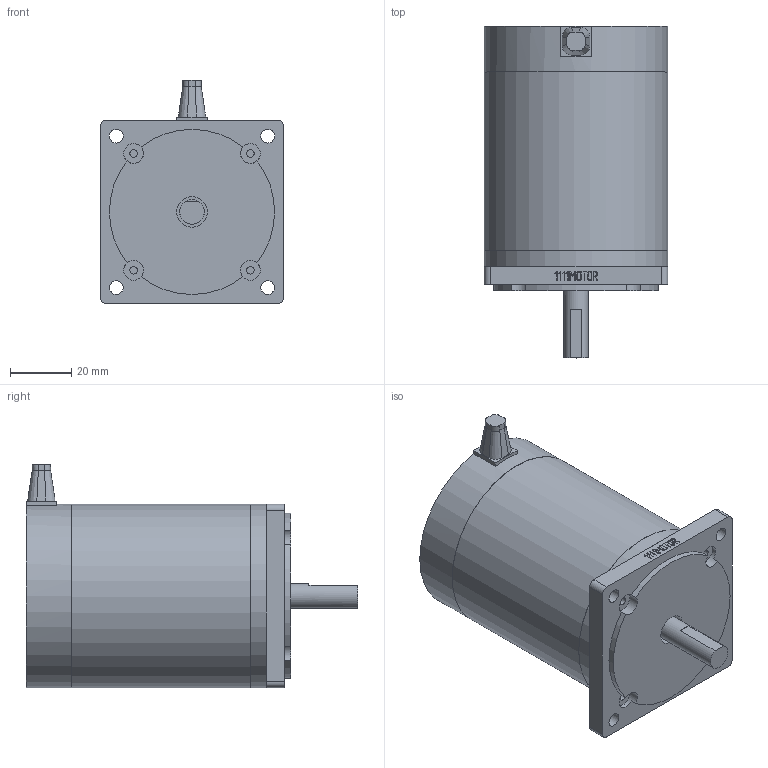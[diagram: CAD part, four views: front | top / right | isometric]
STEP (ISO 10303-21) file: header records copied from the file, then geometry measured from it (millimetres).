
FILE_DESCRIPTION(/* description */ ('Unknown'),/* implementation_level */ '2;1');
FILE_NAME(/* name */ 'BL60M',/* time_stamp */ '2022-08-15T11:27:46+08:00',/* author */ ('Unknown'),/* organization */ ('Unknown'),/* preprocessor_version */ 'ST-DEVELOPER v16.7',/* originating_system */ 'DEX',/* authorisation */ $);
FILE_SCHEMA (('AUTOMOTIVE_DESIGN {1 0 10303 214 3 1 1}'));
Length unit declared in the file: millimetre
Products named in the file (5): BL60M; BL60«et; BL60M诀; BL60後0; BL60軸0
Assembly tree (4 placements, depth 2):
  BL60M
    BL60«et
    BL60M诀
    BL60後0
    BL60軸0
Bounding box: 60 x 108.5 x 73 mm (x, y, z)
Volume: 142513 mm3; surface area: 46385.1 mm2
Topology: 4 solids, 4 shells, 152 faces, 379 edges, 252 vertices
Faces by surface type: plane 104, cylinder 33, bspline 15
Full cylindrical faces by diameter (mm): 2.459 x4, 4.5 x4, 6.5 x4, 8 x1, 10 x2, 30 x2, 50 x1, 60 x3
Entity records: 5967 total; most frequent: CARTESIAN_POINT 1414, ORIENTED_EDGE 674, DIRECTION 666, EDGE_CURVE 337, VERTEX_POINT 235, LINE 232, VECTOR 232, AXIS2_PLACEMENT_3D 217
